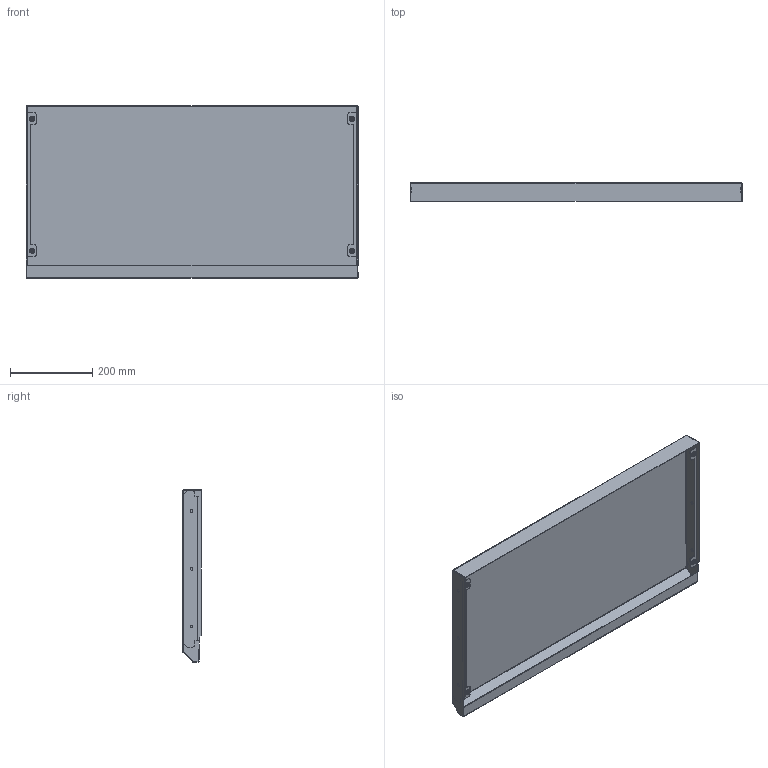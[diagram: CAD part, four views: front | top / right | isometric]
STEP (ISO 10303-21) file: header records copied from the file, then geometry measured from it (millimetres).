
FILE_DESCRIPTION (( 'STEP AP214' ), '1' );
FILE_NAME ('RKC 80.40 ﾊ鰀靍裲 鈞隆.STEP', '2023-07-29T07:52:21', ( '' ), ( '' ), 'SwSTEP 2.0', 'SolidWorks 2019', '' );
FILE_SCHEMA (( 'AUTOMOTIVE_DESIGN' ));
Length unit declared in the file: millimetre
Products named in the file (4): RKC Y.Z 01.001 扻踑謥獥RKC 80.40 ; Ãàéêà-çàêë¸ïêà Ì6; RKC Z 01.002 扰鍙欙樥燲RKC 40 ; RKC 80.40 ﾊ鰀靍裲 鈞隆
Assembly tree (7 placements, depth 2):
  RKC 80.40 ﾊ鰀靍裲 鈞隆
    RKC Y.Z 01.001 扻踑謥獥RKC 80.40 
    RKC Z 01.002 扰鍙欙樥燲RKC 40   x2
    Ãàéêà-çàêë¸ïêà Ì6  x4
Bounding box: 805 x 45 x 418 mm (x, y, z)
Volume: 674255.2 mm3; surface area: 970385.7 mm2
Topology: 7 solids, 7 shells, 422 faces, 1052 edges, 660 vertices
Faces by surface type: cylinder 216, plane 136, torus 40, bspline 30
Entity records: 8329 total; most frequent: CARTESIAN_POINT 2995, ORIENTED_EDGE 1124, DIRECTION 1038, EDGE_CURVE 562, AXIS2_PLACEMENT_3D 378, VERTEX_POINT 351, LINE 282, VECTOR 282
